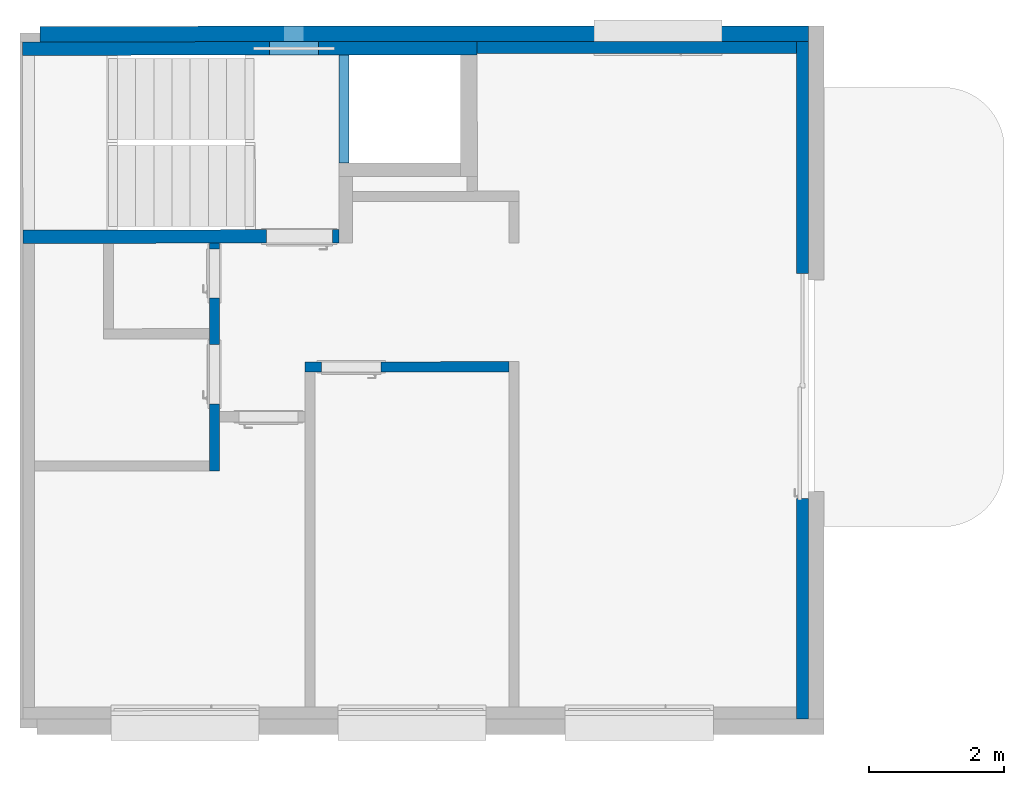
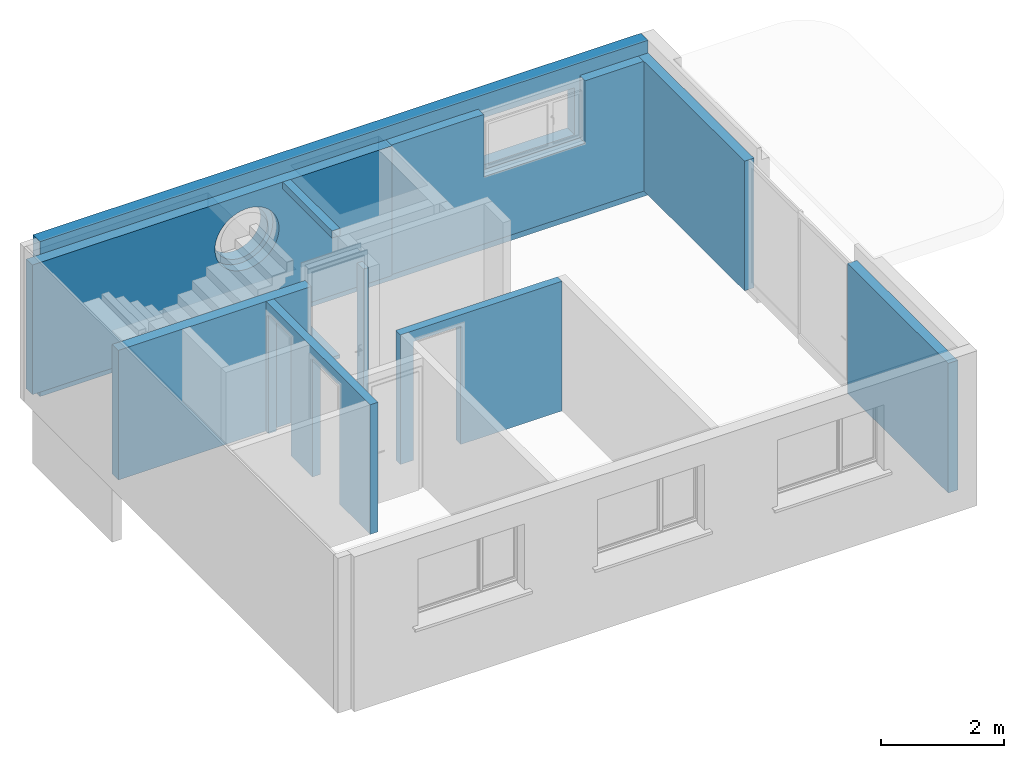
# One storey, part 2 of 9: 8 walls, 10 openings.
"""IFC2X3 building model written with IfcOpenShell, lengths in metres."""

from ifc_helpers import new_model, entity, si_unit, converted_unit, derived_unit, direction, frame, origin, place, context, subcontext, project, spatial, faceted_brep, material, element, save


model = new_model("IFC2X3")

# Units and contexts
model_context = context("Model", 3, precision=1e-05, world=origin(), true_north=direction((0.772621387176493, -0.634867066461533)))
body_context = subcontext(model_context, "Body", "Model", "MODEL_VIEW")
ifc_project = project(units=[si_unit("LENGTHUNIT", "METRE"), si_unit("AREAUNIT", "SQUARE_METRE"), si_unit("VOLUMEUNIT", "CUBIC_METRE"), si_unit("MASSUNIT", "GRAM", prefix="KILO"), converted_unit("PLANEANGLEUNIT", "DEGREE", entity("IfcPlaneAngleMeasure", 0.0174532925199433), si_unit("PLANEANGLEUNIT", "RADIAN"), dimensions=[0, 0, 0, 0, 0, 0, 0]), derived_unit("THERMALTRANSMITTANCEUNIT", [(si_unit("POWERUNIT", "WATT"), 1), (si_unit("THERMODYNAMICTEMPERATUREUNIT", "KELVIN"), -1), (si_unit("LENGTHUNIT", "METRE"), -2)]), derived_unit("VOLUMETRICFLOWRATEUNIT", [(si_unit("LENGTHUNIT", "METRE"), 3), (converted_unit("TIMEUNIT", "hour", entity("IfcTimeMeasure", 3600.0), si_unit("TIMEUNIT", "SECOND"), dimensions=[0, 0, 1, 0, 0, 0, 0]), -1), (si_unit("LENGTHUNIT", "METRE"), -1)])], contexts=[model_context])

# Site, building, storey
site_placement = place(None, origin())
site = spatial("IfcSite", under=ifc_project, at=site_placement, Name="Modelle auf dem Nullpunkt", CompositionType="ELEMENT")
building_placement = place(site_placement, origin())
building = spatial("IfcBuilding", under=site, at=building_placement, Name="I", CompositionType="ELEMENT")
storey_placement = place(building_placement, origin())
storey = spatial("IfcBuildingStorey", under=building, at=storey_placement, Name="1.OG", CompositionType="ELEMENT", Elevation=0.0)

# Wall, opening
ifc_material_1 = material(Name="Brique")
wall_1_placement = place(storey_placement, frame((33.5536264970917, -2.76190628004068, 438.82)))
wall_1 = element("IfcWall", 1, at=wall_1_placement, inside=storey, material=ifc_material_1, context=body_context, shape_type="Brep", body=[
    faceted_brep([(5.30222618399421e-05, 0.0, 0.0), (0.0, 0.149999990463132, 0.0), (0.0, 0.149999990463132, 2.57), (5.30222618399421e-05, 0.0, 2.57), (3.02999981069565, 0.151071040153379, 0.0), (3.02999981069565, 0.151071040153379, 2.57), (3.03005283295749, 0.00107104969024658, 0.0), (3.03005283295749, 0.00107104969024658, 2.57)], [[[0, 1, 2, 3]], [[1, 4, 5, 2]], [[4, 6, 7, 5]], [[6, 0, 3, 7]], [[3, 2, 5, 7]], [[0, 6, 4, 1]]], orient=[[False], [False], [False], [False], [False], [False]]),
])
opening_1_placement = place(wall_1_placement, frame((0.24999998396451, 8.83704363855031e-05, 0.0)))
element("IfcOpeningElement", 2, at=opening_1_placement, cuts=wall_1, ObjectType="Opening", context=body_context, shape_type="Brep", body=[
    faceted_brep([(0.880052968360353, 0.000311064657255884, 0.0), (5.30223846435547e-05, 0.0, 0.0), (5.30223846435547e-05, 0.0, 2.35), (0.880052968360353, 0.000311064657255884, 2.35), (0.879999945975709, 0.150311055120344, 0.0), (0.879999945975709, 0.150311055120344, 2.35), (0.0, 0.149999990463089, 2.35), (0.0, 0.149999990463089, 0.0)], [[[0, 1, 2, 3]], [[4, 5, 6, 7]], [[1, 0, 4, 7]], [[2, 1, 7, 6]], [[3, 2, 6, 5]], [[0, 3, 5, 4]]], orient=[[False], [False], [False], [False], [False], [False]]),
])

ifc_material_2 = material(Name="Béton")
wall_2_placement = place(storey_placement, frame((29.3679339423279, -0.853385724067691, 438.82)))
wall_2 = element("IfcWall", 3, at=wall_2_placement, inside=storey, material=ifc_material_2, Name="Betonwand", context=body_context, shape_type="Brep", body=[
    faceted_brep([(4.69499970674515, 0.201659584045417, 0.0), (4.69507040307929, 0.00165959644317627, 0.0), (4.69507040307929, 0.00165959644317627, 2.57), (4.69499970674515, 0.201659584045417, 2.57), (7.06963341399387e-05, 0.0, 0.0), (7.06963341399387e-05, 0.0, 2.57), (0.0, 0.199999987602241, 0.0), (0.0, 0.199999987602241, 2.57)], [[[0, 1, 2, 3]], [[1, 4, 5, 2]], [[4, 6, 7, 5]], [[6, 0, 3, 7]], [[3, 2, 5, 7]], [[0, 6, 4, 1]]], orient=[[False], [False], [False], [False], [False], [False]]),
])
opening_2_placement = place(wall_2_placement, frame((3.61499977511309, 0.00127783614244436, 0.0)))
element("IfcOpeningElement", 4, at=opening_2_placement, cuts=wall_2, ObjectType="Opening", context=body_context, shape_type="Brep", body=[
    faceted_brep([(0.979999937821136, 0.200346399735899, 0.0), (0.979999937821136, 0.200346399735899, 2.57), (0.0, 0.199999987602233, 2.57), (0.0, 0.199999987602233, 0.0), (0.980070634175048, 0.000346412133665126, 0.0), (7.06963539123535e-05, 0.0, 0.0), (7.06963539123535e-05, 0.0, 2.57), (0.980070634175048, 0.000346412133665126, 2.57)], [[[0, 1, 2, 3]], [[4, 5, 6, 7]], [[3, 5, 4, 0]], [[6, 5, 3, 2]], [[0, 4, 7, 1]], [[7, 6, 2, 1]]], orient=[[False], [False], [False], [False], [False], [False]]),
])

ifc_material_3 = material(Name="Béton")
wall_3_placement = place(storey_placement, frame((29.3669477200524, 1.93661409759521, 438.82)))
wall_3 = element("IfcWall", 5, at=wall_3_placement, inside=storey, material=ifc_material_3, Name="Betonwand", context=body_context, shape_type="Brep", body=[
    faceted_brep([(6.74499957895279, 0.202384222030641, 0.0), (6.74507027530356, 0.00238423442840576, 0.0), (6.74507027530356, 0.00238423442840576, 2.57), (6.74499957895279, 0.202384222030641, 2.57), (7.06963507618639e-05, 0.0, 0.0), (7.06963507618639e-05, 0.0, 2.57), (0.0, 0.199999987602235, 0.0), (0.0, 0.199999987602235, 2.57)], [[[0, 1, 2, 3]], [[1, 4, 5, 2]], [[4, 6, 7, 5]], [[6, 0, 3, 7]], [[3, 2, 5, 7]], [[0, 6, 4, 1]]], orient=[[False], [False], [False], [False], [False], [False]]),
])
opening_3_placement = place(wall_3_placement, frame((3.42499978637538, 0.00121067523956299, 1.08000000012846)))
element("IfcOpeningElement", 6, at=opening_3_placement, cuts=wall_3, ObjectType="Opening", context=body_context, shape_type="Brep", body=[
    faceted_brep([(7.06963539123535e-05, 0.0, 0.600024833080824), (0.00336006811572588, 1.16273302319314e-06, 0.662740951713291), (0.0131869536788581, 4.63635813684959e-06, 0.724769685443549), (0.0294436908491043, 1.0382818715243e-05, 0.785431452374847), (0.0519521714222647, 1.83391567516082e-05, 0.844061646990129), (0.0804657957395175, 2.84182037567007e-05, 0.900017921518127), (0.114672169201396, 4.05095339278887e-05, 0.952687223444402), (0.154196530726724, 5.44806760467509e-05, 1.00149251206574), (0.198605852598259, 7.01785627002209e-05, 1.0458990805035), (0.247413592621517, 8.74312100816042e-05, 1.08542041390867), (0.300085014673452, 0.000106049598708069, 1.11962351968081), (0.356043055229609, 0.00012582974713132, 1.14813367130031), (0.414674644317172, 0.000146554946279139, 1.1706385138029), (0.475337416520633, 0.000167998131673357, 1.18689148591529), (0.537366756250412, 0.000189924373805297, 1.19671452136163), (0.600083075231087, 0.000212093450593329, 1.19999999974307), (0.662799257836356, 0.000234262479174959, 1.19671192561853), (0.724828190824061, 0.000256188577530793, 1.18688632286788), (0.785490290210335, 0.000277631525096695, 1.17063084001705), (0.844120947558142, 0.000298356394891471, 1.14812357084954), (0.90007780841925, 0.000318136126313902, 1.11961110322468), (0.952747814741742, 0.000336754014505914, 1.08540581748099), (1.00155391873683, 0.000354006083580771, 1.04588246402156), (1.0459614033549, 0.000369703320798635, 1.00147405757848), (1.08548374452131, 0.000383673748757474, 0.952667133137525), (1.11968793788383, 0.000395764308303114, 0.899996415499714), (1.14819924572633, 0.000405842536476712, 0.844038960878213), (1.17070530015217, 0.00041379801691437, 0.785407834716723), (1.18695952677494, 0.000419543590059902, 0.724745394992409), (1.19678384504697, 0.000423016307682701, 0.662716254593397), (1.20007062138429, 0.000424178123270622, 0.599999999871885), (1.19678384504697, 0.000423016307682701, 0.537283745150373), (1.18695952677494, 0.000419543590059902, 0.475254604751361), (1.17070530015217, 0.00041379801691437, 0.414592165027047), (1.14819924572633, 0.000405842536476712, 0.355961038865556), (1.11968793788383, 0.000395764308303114, 0.300003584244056), (1.08548374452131, 0.000383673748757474, 0.247332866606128), (1.0459614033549, 0.000369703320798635, 0.198525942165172), (1.00155391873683, 0.000354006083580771, 0.154117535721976), (0.952747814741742, 0.000336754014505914, 0.114594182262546), (0.90007780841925, 0.000318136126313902, 0.0803888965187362), (0.844120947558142, 0.000298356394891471, 0.0518764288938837), (0.785490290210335, 0.000277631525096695, 0.0293691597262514), (0.724828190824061, 0.000256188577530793, 0.0131136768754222), (0.662799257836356, 0.000234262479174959, 0.00328807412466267), (0.600083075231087, 0.000212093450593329, 0.0), (0.537366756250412, 0.000189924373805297, 0.00328547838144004), (0.475337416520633, 0.000167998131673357, 0.0131085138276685), (0.414674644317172, 0.000146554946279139, 0.029361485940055), (0.356043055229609, 0.00012582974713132, 0.0518663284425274), (0.300085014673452, 0.000106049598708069, 0.0803764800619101), (0.247413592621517, 8.74312100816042e-05, 0.114579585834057), (0.198605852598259, 7.01785627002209e-05, 0.154100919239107), (0.154196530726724, 5.44806760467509e-05, 0.198507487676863), (0.114672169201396, 4.05095339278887e-05, 0.247312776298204), (0.0804657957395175, 2.84182037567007e-05, 0.299982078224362), (0.0519521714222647, 1.83391567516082e-05, 0.355938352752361), (0.0294436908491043, 1.0382818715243e-05, 0.414568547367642), (0.0131869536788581, 4.63635813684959e-06, 0.475230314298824), (0.00336006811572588, 1.16273302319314e-06, 0.537259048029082), (0.0, 0.199999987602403, 0.600024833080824), (0.00328937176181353, 0.200001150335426, 0.537259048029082), (0.0131162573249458, 0.200004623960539, 0.475230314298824), (0.029372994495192, 0.200010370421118, 0.414568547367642), (0.0518814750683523, 0.200018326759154, 0.355938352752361), (0.0803950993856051, 0.200028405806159, 0.299982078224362), (0.114601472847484, 0.20004049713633, 0.247312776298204), (0.154125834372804, 0.200054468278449, 0.198507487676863), (0.198535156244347, 0.200070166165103, 0.154100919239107), (0.247342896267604, 0.200087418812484, 0.114579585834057), (0.300014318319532, 0.200106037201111, 0.0803764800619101), (0.355972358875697, 0.200125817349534, 0.0518663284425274), (0.41460394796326, 0.200146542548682, 0.029361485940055), (0.475266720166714, 0.200167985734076, 0.0131085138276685), (0.537296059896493, 0.200189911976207, 0.00328547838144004), (0.600012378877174, 0.200212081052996, 0.0), (0.662728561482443, 0.200234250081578, 0.00328807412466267), (0.724757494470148, 0.200256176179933, 0.0131136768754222), (0.785419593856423, 0.200277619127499, 0.0293691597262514), (0.844050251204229, 0.200298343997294, 0.0518764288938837), (0.900007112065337, 0.200318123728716, 0.0803888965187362), (0.95267711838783, 0.200336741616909, 0.114594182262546), (1.00148322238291, 0.200353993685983, 0.154117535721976), (1.04589070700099, 0.200369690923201, 0.198525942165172), (1.0854130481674, 0.20038366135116, 0.247332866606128), (1.11961724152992, 0.200395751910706, 0.300003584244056), (1.14812854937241, 0.200405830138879, 0.355961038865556), (1.17063460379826, 0.200413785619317, 0.414592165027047), (1.18688883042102, 0.200419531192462, 0.475254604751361), (1.19671314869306, 0.200423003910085, 0.537283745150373), (1.19999992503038, 0.200424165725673, 0.599999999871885), (1.19671314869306, 0.200423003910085, 0.662716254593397), (1.18688883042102, 0.200419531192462, 0.724745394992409), (1.17063460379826, 0.200413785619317, 0.785407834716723), (1.14812854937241, 0.200405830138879, 0.844038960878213), (1.11961724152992, 0.200395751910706, 0.899996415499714), (1.0854130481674, 0.20038366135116, 0.952667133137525), (1.04589070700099, 0.200369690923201, 1.00147405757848), (1.00148322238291, 0.200353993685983, 1.04588246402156), (0.95267711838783, 0.200336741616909, 1.08540581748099), (0.900007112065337, 0.200318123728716, 1.11961110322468), (0.844050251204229, 0.200298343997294, 1.14812357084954), (0.785419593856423, 0.200277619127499, 1.17063084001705), (0.724757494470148, 0.200256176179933, 1.18688632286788), (0.662728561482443, 0.200234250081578, 1.19671192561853), (0.600012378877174, 0.200212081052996, 1.19999999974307), (0.537296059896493, 0.200189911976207, 1.19671452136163), (0.475266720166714, 0.200167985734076, 1.18689148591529), (0.41460394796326, 0.200146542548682, 1.1706385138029), (0.355972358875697, 0.200125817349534, 1.14813367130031), (0.300014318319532, 0.200106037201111, 1.11962351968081), (0.247342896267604, 0.200087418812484, 1.08542041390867), (0.198535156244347, 0.200070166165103, 1.0458990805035), (0.154125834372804, 0.200054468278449, 1.00149251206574), (0.114601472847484, 0.20004049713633, 0.952687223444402), (0.0803950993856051, 0.200028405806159, 0.900017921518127), (0.0518814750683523, 0.200018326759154, 0.844061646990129), (0.029372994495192, 0.200010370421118, 0.785431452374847), (0.0131162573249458, 0.200004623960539, 0.724769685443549), (0.00328937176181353, 0.200001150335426, 0.662740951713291)], [[[0, 1, 2, 3, 4, 5, 6, 7, 8, 9, 10, 11, 12, 13, 14, 15, 16, 17, 18, 19, 20, 21, 22, 23, 24, 25, 26, 27, 28, 29, 30, 31, 32, 33, 34, 35, 36, 37, 38, 39, 40, 41, 42, 43, 44, 45, 46, 47, 48, 49, 50, 51, 52, 53, 54, 55, 56, 57, 58, 59]], [[60, 61, 62, 63, 64, 65, 66, 67, 68, 69, 70, 71, 72, 73, 74, 75, 76, 77, 78, 79, 80, 81, 82, 83, 84, 85, 86, 87, 88, 89, 90, 91, 92, 93, 94, 95, 96, 97, 98, 99, 100, 101, 102, 103, 104, 105, 106, 107, 108, 109, 110, 111, 112, 113, 114, 115, 116, 117, 118, 119]], [[1, 0, 60, 119]], [[2, 1, 119, 118]], [[3, 2, 118, 117]], [[4, 3, 117, 116]], [[5, 4, 116, 115]], [[6, 5, 115, 114]], [[7, 6, 114, 113]], [[8, 7, 113, 112]], [[9, 8, 112, 111]], [[10, 9, 111, 110]], [[11, 10, 110, 109]], [[12, 11, 109, 108]], [[13, 12, 108, 107]], [[14, 13, 107, 106]], [[15, 14, 106, 105]], [[16, 15, 105, 104]], [[17, 16, 104, 103]], [[18, 17, 103, 102]], [[19, 18, 102, 101]], [[20, 19, 101, 100]], [[21, 20, 100, 99]], [[22, 21, 99, 98]], [[23, 22, 98, 97]], [[24, 23, 97, 96]], [[25, 24, 96, 95]], [[26, 25, 95, 94]], [[27, 26, 94, 93]], [[28, 27, 93, 92]], [[29, 28, 92, 91]], [[30, 29, 91, 90]], [[31, 30, 90, 89]], [[32, 31, 89, 88]], [[33, 32, 88, 87]], [[34, 33, 87, 86]], [[35, 34, 86, 85]], [[36, 35, 85, 84]], [[37, 36, 84, 83]], [[38, 37, 83, 82]], [[39, 38, 82, 81]], [[40, 39, 81, 80]], [[41, 40, 80, 79]], [[42, 41, 79, 78]], [[43, 42, 78, 77]], [[44, 43, 77, 76]], [[45, 44, 76, 75]], [[46, 45, 75, 74]], [[47, 46, 74, 73]], [[48, 47, 73, 72]], [[49, 48, 72, 71]], [[50, 49, 71, 70]], [[51, 50, 70, 69]], [[52, 51, 69, 68]], [[53, 52, 68, 67]], [[54, 53, 67, 66]], [[55, 54, 66, 65]], [[56, 55, 65, 64]], [[57, 56, 64, 63]], [[58, 57, 63, 62]], [[59, 58, 62, 61]], [[0, 59, 61, 60]]], orient=[[False], [False], [False], [False], [False], [False], [False], [False], [False], [False], [False], [False], [False], [False], [False], [False], [False], [False], [False], [False], [False], [False], [False], [False], [False], [False], [False], [False], [False], [False], [False], [False], [False], [False], [False], [False], [False], [False], [False], [False], [False], [False], [False], [False], [False], [False], [False], [False], [False], [False], [False], [False], [False], [False], [False], [False], [False], [False], [False], [False], [False], [False]]),
])

ifc_material_4 = material(Name="Béton")
wall_4_placement = place(storey_placement, frame((34.0620181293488, 0.338273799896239, 438.82)))
wall_4 = element("IfcWall", 7, at=wall_4_placement, inside=storey, material=ifc_material_4, Name="Betonwand", context=body_context, shape_type="Brep", body=[
    faceted_brep([(0.0, 1.5999998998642, 0.0), (0.1499999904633, 1.60005292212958, 0.0), (0.1499999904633, 1.60005292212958, 2.57), (0.0, 1.5999998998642, 2.57), (0.150565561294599, 5.30222653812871e-05, 0.0), (0.150565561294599, 5.30222653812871e-05, 2.57), (0.000565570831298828, 0.0, 0.0), (0.000565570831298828, 0.0, 2.57)], [[[0, 1, 2, 3]], [[1, 4, 5, 2]], [[4, 6, 7, 5]], [[6, 0, 3, 7]], [[3, 2, 5, 7]], [[0, 6, 4, 1]]], orient=[[False], [False], [False], [False], [False], [False]]),
])
opening_4_placement = place(wall_4_placement, frame((0.0, 0.0, 0.065)))
element("IfcOpeningElement", 8, at=opening_4_placement, cuts=wall_4, ObjectType="Opening", context=body_context, shape_type="Brep", body=[
    faceted_brep([(0.15056556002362, 5.30221462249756e-05, 0.0), (0.15056556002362, 5.30221462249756e-05, 2.365), (0.149999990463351, 1.60005292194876, 2.365), (0.149999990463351, 1.60005292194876, 0.0), (0.000565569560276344, 0.0, 0.0), (0.0, 1.59999989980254, 0.0), (0.0, 1.59999989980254, 2.365), (0.000565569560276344, 0.0, 2.365)], [[[0, 1, 2, 3]], [[4, 5, 6, 7]], [[3, 5, 4, 0]], [[2, 6, 5, 3]], [[1, 7, 6, 2]], [[0, 4, 7, 1]]], orient=[[False], [False], [False], [False], [False], [False]]),
])

# Wall, openings
ifc_material_5 = material(Name="Brique")
wall_5_placement = place(storey_placement, frame((32.1380044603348, -4.23240637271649, 438.82)))
wall_5 = element("IfcWall", 9, at=wall_5_placement, inside=storey, material=ifc_material_5, context=body_context, shape_type="Brep", body=[
    faceted_brep([(0.15119475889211, 5.30222465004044e-05, 0.0), (0.00119476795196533, 0.0, 0.0), (0.00119476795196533, 0.0, 2.57), (0.15119475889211, 5.30222465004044e-05, 2.57), (0.0, 3.37999978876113, 0.0), (0.0, 3.37999978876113, 2.57), (0.149999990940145, 3.38005281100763, 0.0), (0.149999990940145, 3.38005281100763, 2.57)], [[[0, 1, 2, 3]], [[1, 4, 5, 2]], [[4, 6, 7, 5]], [[6, 0, 3, 7]], [[3, 2, 5, 7]], [[0, 6, 4, 1]]], orient=[[False], [False], [False], [False], [False], [False]]),
])
opening_5_placement = place(wall_5_placement, frame((0.000531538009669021, 0.996278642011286, 0.0)))
element("IfcOpeningElement", 10, at=opening_5_placement, cuts=wall_5, ObjectType="Opening", context=body_context, shape_type="Brep", body=[
    faceted_brep([(0.000311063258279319, 0.0, 0.0), (0.0, 0.879999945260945, 0.0), (0.0, 0.879999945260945, 2.35), (0.000311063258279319, 0.0, 2.35), (0.15031105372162, 5.30221462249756e-05, 0.0), (0.15031105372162, 5.30221462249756e-05, 2.35), (0.149999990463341, 0.88005296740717, 2.35), (0.149999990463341, 0.88005296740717, 0.0)], [[[0, 1, 2, 3]], [[4, 5, 6, 7]], [[1, 0, 4, 7]], [[2, 1, 7, 6]], [[3, 2, 6, 5]], [[0, 3, 5, 4]]], orient=[[False], [False], [False], [False], [False], [False]]),
])
opening_6_placement = place(wall_5_placement, frame((3.0045986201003e-05, 2.564999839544, 0.0)))
element("IfcOpeningElement", 11, at=opening_6_placement, cuts=wall_5, ObjectType="Opening", context=body_context, shape_type="Brep", body=[
    faceted_brep([(0.000258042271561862, 0.0, 0.0), (0.0, 0.729999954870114, 0.0), (0.0, 0.729999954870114, 2.35), (0.000258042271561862, 0.0, 2.35), (0.150258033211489, 5.30223846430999e-05, 0.0), (0.150258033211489, 5.30223846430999e-05, 2.35), (0.149999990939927, 0.730052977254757, 2.35), (0.149999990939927, 0.730052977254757, 0.0)], [[[0, 1, 2, 3]], [[4, 5, 6, 7]], [[1, 0, 4, 7]], [[2, 1, 7, 6]], [[3, 2, 6, 5]], [[0, 3, 5, 4]]], orient=[[False], [False], [False], [False], [False], [False]]),
])

ifc_material_6 = material(Name="Isolation périphérique")
wall_6_placement = place(storey_placement, frame((29.6268664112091, 2.13670599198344, 438.57)))
wall_6 = element("IfcWall", 12, at=wall_6_placement, inside=storey, material=ifc_material_6, context=body_context, shape_type="Brep", body=[
    faceted_brep([(11.3999992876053, 0.234029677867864, 0.0), (11.4000805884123, 0.00402969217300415, 0.0), (11.4000805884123, 0.00402969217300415, 3.07), (11.3999992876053, 0.234029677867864, 3.07), (8.13008070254e-05, 0.0, 0.0), (8.13008070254e-05, 0.0, 3.07), (0.0, 0.22999998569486, 0.0), (0.0, 0.22999998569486, 3.07)], [[[0, 1, 2, 3]], [[1, 4, 5, 2]], [[4, 6, 7, 5]], [[6, 0, 3, 7]], [[3, 2, 5, 7]], [[0, 6, 4, 1]]], orient=[[False], [False], [False], [False], [False], [False]]),
])
opening_7_placement = place(wall_6_placement, frame((8.31999948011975, 0.00294096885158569, 1.68)))
element("IfcOpeningElement", 13, at=opening_7_placement, cuts=wall_6, ObjectType="Opening", context=body_context, shape_type="Brep", body=[
    faceted_brep([(1.69999989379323, 0.230600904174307, 0.0), (1.69999989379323, 0.230600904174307, 0.93), (0.0, 0.229999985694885, 0.93), (0.0, 0.229999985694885, 0.0), (1.7000811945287, 0.000600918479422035, 0.0), (8.13007354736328e-05, 0.0, 0.0), (8.13007354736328e-05, 0.0, 0.93), (1.7000811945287, 0.000600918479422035, 0.93)], [[[0, 1, 2, 3]], [[4, 5, 6, 7]], [[3, 5, 4, 0]], [[2, 6, 5, 3]], [[1, 7, 6, 2]], [[0, 4, 7, 1]]], orient=[[False], [False], [False], [False], [False], [False]]),
])
opening_8_placement = place(wall_6_placement, frame((3.26499977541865, 0.00115411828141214, 1.43000000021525)))
element("IfcOpeningElement", 14, at=opening_8_placement, cuts=wall_6, ObjectType="Opening", context=body_context, shape_type="Brep", body=[
    faceted_brep([(0.0, 0.229999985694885, 0.499999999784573), (0.00273894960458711, 0.230000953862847, 0.447736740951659), (0.0109257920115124, 0.230003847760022, 0.396046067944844), (0.0244708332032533, 0.230008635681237, 0.345494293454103), (0.0432256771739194, 0.230015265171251, 0.296635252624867), (0.0669848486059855, 0.230023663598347, 0.250004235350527), (0.095488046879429, 0.230033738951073, 0.206112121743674), (0.128422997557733, 0.230045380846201, 0.165439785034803), (0.165428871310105, 0.230058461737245, 0.128432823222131), (0.20610023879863, 0.230072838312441, 0.0954966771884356), (0.249991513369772, 0.230088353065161, 0.0669921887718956), (0.296621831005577, 0.230104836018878, 0.043231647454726), (0.345480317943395, 0.23012210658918, 0.0244753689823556), (0.396031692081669, 0.230139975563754, 0.0109288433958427), (0.447722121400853, 0.230158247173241, 0.00274048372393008), (0.499985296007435, 0.230176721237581, 0.0), (0.552248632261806, 0.230195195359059, 0.00273741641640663), (0.603939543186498, 0.230213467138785, 0.0109227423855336), (0.65449171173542, 0.230231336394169, 0.0244663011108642), (0.70335129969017, 0.230248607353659, 0.0432197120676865), (0.749983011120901, 0.230265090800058, 0.0669775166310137), (0.793875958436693, 0.230280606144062, 0.0954794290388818), (0.834549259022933, 0.230294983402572, 0.128413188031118), (0.871557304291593, 0.230308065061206, 0.165417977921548), (0.904494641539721, 0.230319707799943, 0.206088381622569), (0.933000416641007, 0.23032978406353, 0.249978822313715), (0.95676232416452, 0.230338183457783, 0.296608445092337), (0.975520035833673, 0.230344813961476, 0.345466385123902), (0.989068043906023, 0.230349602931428, 0.396017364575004), (0.997257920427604, 0.230352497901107, 0.447707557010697), (0.999999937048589, 0.230353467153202, 0.499970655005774), (0.997257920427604, 0.230352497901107, 0.552292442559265), (0.989068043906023, 0.230349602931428, 0.603982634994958), (0.975520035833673, 0.230344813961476, 0.65453361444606), (0.95676232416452, 0.230338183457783, 0.703391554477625), (0.933000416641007, 0.23032978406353, 0.750021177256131), (0.904494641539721, 0.230319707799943, 0.793911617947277), (0.871557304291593, 0.230308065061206, 0.834582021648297), (0.834549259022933, 0.230294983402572, 0.871586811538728), (0.793875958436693, 0.230280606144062, 0.904520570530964), (0.749983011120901, 0.230265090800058, 0.933022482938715), (0.70335129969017, 0.230248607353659, 0.956780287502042), (0.65449171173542, 0.230231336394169, 0.975533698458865), (0.603939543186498, 0.230213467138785, 0.989077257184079), (0.552248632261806, 0.230195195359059, 0.997262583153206), (0.499985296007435, 0.230176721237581, 0.999999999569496), (0.447722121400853, 0.230158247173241, 0.997259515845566), (0.396031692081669, 0.230139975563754, 0.989071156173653), (0.345480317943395, 0.23012210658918, 0.975524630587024), (0.296621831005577, 0.230104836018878, 0.956768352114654), (0.249991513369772, 0.230088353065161, 0.933007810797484), (0.20610023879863, 0.230072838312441, 0.904503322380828), (0.165428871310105, 0.230058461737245, 0.871567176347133), (0.128422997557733, 0.230045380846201, 0.83456021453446), (0.095488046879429, 0.230033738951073, 0.793887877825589), (0.0669848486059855, 0.230023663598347, 0.74999576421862), (0.0432256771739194, 0.230015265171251, 0.70336474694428), (0.0244708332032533, 0.230008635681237, 0.654505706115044), (0.0109257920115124, 0.230003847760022, 0.603953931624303), (0.00273894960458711, 0.230000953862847, 0.552263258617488), (8.13007354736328e-05, 0.0, 0.499999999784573), (0.00282025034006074, 9.68167961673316e-07, 0.552263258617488), (0.011007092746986, 3.86206513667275e-06, 0.603953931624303), (0.0245521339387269, 8.64998635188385e-06, 0.654505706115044), (0.043306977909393, 1.52794763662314e-05, 0.70336474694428), (0.0670661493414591, 2.36779034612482e-05, 0.74999576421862), (0.0955693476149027, 3.37532561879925e-05, 0.793887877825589), (0.128504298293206, 4.53951513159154e-05, 0.83456021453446), (0.165510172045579, 5.84760423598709e-05, 0.871567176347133), (0.206181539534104, 7.28526175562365e-05, 0.904503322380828), (0.250072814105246, 8.83673702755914e-05, 0.933007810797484), (0.296703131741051, 0.00010485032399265, 0.956768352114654), (0.345561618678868, 0.000122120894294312, 0.975524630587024), (0.396112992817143, 0.000139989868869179, 0.989071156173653), (0.447803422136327, 0.000158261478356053, 0.997259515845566), (0.500066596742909, 0.000176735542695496, 0.999999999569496), (0.55232993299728, 0.000195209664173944, 0.997262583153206), (0.604020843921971, 0.000213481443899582, 0.989077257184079), (0.654573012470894, 0.000231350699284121, 0.975533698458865), (0.703432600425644, 0.000248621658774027, 0.956780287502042), (0.750064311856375, 0.000265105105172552, 0.933022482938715), (0.793957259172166, 0.00028062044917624, 0.904520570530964), (0.834630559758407, 0.000294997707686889, 0.871586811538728), (0.871638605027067, 0.000308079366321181, 0.834582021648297), (0.904575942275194, 0.000319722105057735, 0.793911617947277), (0.933081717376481, 0.000329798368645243, 0.750021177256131), (0.956843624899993, 0.000338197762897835, 0.703391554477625), (0.975601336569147, 0.000344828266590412, 0.65453361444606), (0.989149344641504, 0.000349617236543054, 0.603982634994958), (0.997339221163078, 0.00035251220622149, 0.552292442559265), (1.00008123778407, 0.00035348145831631, 0.499970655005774), (0.997339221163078, 0.00035251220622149, 0.447707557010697), (0.989149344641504, 0.000349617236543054, 0.396017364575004), (0.975601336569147, 0.000344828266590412, 0.345466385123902), (0.956843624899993, 0.000338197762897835, 0.296608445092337), (0.933081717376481, 0.000329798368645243, 0.249978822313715), (0.904575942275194, 0.000319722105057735, 0.206088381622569), (0.871638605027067, 0.000308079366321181, 0.165417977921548), (0.834630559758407, 0.000294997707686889, 0.128413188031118), (0.793957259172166, 0.00028062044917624, 0.0954794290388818), (0.750064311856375, 0.000265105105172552, 0.0669775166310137), (0.703432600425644, 0.000248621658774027, 0.0432197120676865), (0.654573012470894, 0.000231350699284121, 0.0244663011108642), (0.604020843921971, 0.000213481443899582, 0.0109227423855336), (0.55232993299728, 0.000195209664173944, 0.00273741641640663), (0.500066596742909, 0.000176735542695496, 0.0), (0.447803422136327, 0.000158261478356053, 0.00274048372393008), (0.396112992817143, 0.000139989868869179, 0.0109288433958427), (0.345561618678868, 0.000122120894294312, 0.0244753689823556), (0.296703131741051, 0.00010485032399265, 0.043231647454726), (0.250072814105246, 8.83673702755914e-05, 0.0669921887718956), (0.206181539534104, 7.28526175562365e-05, 0.0954966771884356), (0.165510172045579, 5.84760423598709e-05, 0.128432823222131), (0.128504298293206, 4.53951513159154e-05, 0.165439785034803), (0.0955693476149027, 3.37532561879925e-05, 0.206112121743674), (0.0670661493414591, 2.36779034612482e-05, 0.250004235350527), (0.043306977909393, 1.52794763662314e-05, 0.296635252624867), (0.0245521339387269, 8.64998635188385e-06, 0.345494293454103), (0.011007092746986, 3.86206513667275e-06, 0.396046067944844), (0.00282025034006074, 9.68167961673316e-07, 0.447736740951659)], [[[0, 1, 2, 3, 4, 5, 6, 7, 8, 9, 10, 11, 12, 13, 14, 15, 16, 17, 18, 19, 20, 21, 22, 23, 24, 25, 26, 27, 28, 29, 30, 31, 32, 33, 34, 35, 36, 37, 38, 39, 40, 41, 42, 43, 44, 45, 46, 47, 48, 49, 50, 51, 52, 53, 54, 55, 56, 57, 58, 59]], [[60, 61, 62, 63, 64, 65, 66, 67, 68, 69, 70, 71, 72, 73, 74, 75, 76, 77, 78, 79, 80, 81, 82, 83, 84, 85, 86, 87, 88, 89, 90, 91, 92, 93, 94, 95, 96, 97, 98, 99, 100, 101, 102, 103, 104, 105, 106, 107, 108, 109, 110, 111, 112, 113, 114, 115, 116, 117, 118, 119]], [[59, 61, 60, 0]], [[58, 62, 61, 59]], [[57, 63, 62, 58]], [[56, 64, 63, 57]], [[55, 65, 64, 56]], [[54, 66, 65, 55]], [[53, 67, 66, 54]], [[52, 68, 67, 53]], [[51, 69, 68, 52]], [[50, 70, 69, 51]], [[49, 71, 70, 50]], [[48, 72, 71, 49]], [[47, 73, 72, 48]], [[46, 74, 73, 47]], [[45, 75, 74, 46]], [[44, 76, 75, 45]], [[43, 77, 76, 44]], [[42, 78, 77, 43]], [[41, 79, 78, 42]], [[40, 80, 79, 41]], [[39, 81, 80, 40]], [[38, 82, 81, 39]], [[37, 83, 82, 38]], [[36, 84, 83, 37]], [[35, 85, 84, 36]], [[34, 86, 85, 35]], [[33, 87, 86, 34]], [[32, 88, 87, 33]], [[31, 89, 88, 32]], [[30, 90, 89, 31]], [[29, 91, 90, 30]], [[28, 92, 91, 29]], [[27, 93, 92, 28]], [[26, 94, 93, 27]], [[25, 95, 94, 26]], [[24, 96, 95, 25]], [[23, 97, 96, 24]], [[22, 98, 97, 23]], [[21, 99, 98, 22]], [[20, 100, 99, 21]], [[19, 101, 100, 20]], [[18, 102, 101, 19]], [[17, 103, 102, 18]], [[16, 104, 103, 17]], [[15, 105, 104, 16]], [[14, 106, 105, 15]], [[13, 107, 106, 14]], [[12, 108, 107, 13]], [[11, 109, 108, 12]], [[10, 110, 109, 11]], [[9, 111, 110, 10]], [[8, 112, 111, 9]], [[7, 113, 112, 8]], [[6, 114, 113, 7]], [[5, 115, 114, 6]], [[4, 116, 115, 5]], [[3, 117, 116, 4]], [[2, 118, 117, 3]], [[1, 119, 118, 2]], [[0, 60, 119, 1]]], orient=[[False], [False], [False], [False], [False], [False], [False], [False], [False], [False], [False], [False], [False], [False], [False], [False], [False], [False], [False], [False], [False], [False], [False], [False], [False], [False], [False], [False], [False], [False], [False], [False], [False], [False], [False], [False], [False], [False], [False], [False], [False], [False], [False], [False], [False], [False], [False], [False], [False], [False], [False], [False], [False], [False], [False], [False], [False], [False], [False], [False], [False], [False]]),
])

# Wall, opening
ifc_material_7 = material(Name="Brique")
wall_7_placement = place(storey_placement, frame((36.1119473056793, 1.96399833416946, 438.82)))
wall_7 = element("IfcWall", 15, at=wall_7_placement, inside=storey, material=ifc_material_7, context=body_context, shape_type="Brep", body=[
    faceted_brep([(4.73499970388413, 0.176673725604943, 0.0), (4.73506156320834, 0.00167373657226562, 0.0), (4.73506156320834, 0.00167373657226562, 2.57), (4.73499970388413, 0.176673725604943, 2.57), (6.18593242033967e-05, 0.0, 0.0), (6.18593242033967e-05, 0.0, 2.57), (0.0, 0.174999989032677, 0.0), (0.0, 0.174999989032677, 2.57)], [[[0, 1, 2, 3]], [[1, 4, 5, 2]], [[4, 6, 7, 5]], [[6, 0, 3, 7]], [[3, 2, 5, 7]], [[0, 6, 4, 1]]], orient=[[False], [False], [False], [False], [False], [False]]),
])
opening_9_placement = place(wall_7_placement, frame((1.73499989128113, 0.000613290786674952, 1.33)))
element("IfcOpeningElement", 16, at=opening_9_placement, cuts=wall_7, ObjectType="Opening", context=body_context, shape_type="Brep", body=[
    faceted_brep([(1.90006174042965, 0.000671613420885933, 0.0), (6.1859130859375e-05, 0.0, 0.0), (6.1859130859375e-05, 0.0, 1.24), (1.90006174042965, 0.000671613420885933, 1.24), (1.89999988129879, 0.175671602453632, 0.0), (1.89999988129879, 0.175671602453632, 1.24), (0.0, 0.174999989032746, 1.24), (0.0, 0.174999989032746, 0.0)], [[[0, 1, 2, 3]], [[4, 5, 6, 7]], [[1, 0, 4, 7]], [[2, 1, 7, 6]], [[3, 2, 6, 5]], [[0, 3, 5, 4]]], orient=[[False], [False], [False], [False], [False], [False]]),
])

ifc_material_8 = material(Name="Béton")
wall_8_placement = place(storey_placement, frame((40.8469470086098, -7.90932731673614, 438.82)))
wall_8 = element("IfcWall", 17, at=wall_8_placement, inside=storey, material=ifc_material_8, Name="Betonwand", context=body_context, shape_type="Brep", body=[
    faceted_brep([(0.183552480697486, 6.36267164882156e-05, 0.0), (0.00355249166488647, 0.0, 0.0), (0.00355249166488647, 0.0, 2.57), (0.183552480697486, 6.36267164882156e-05, 2.57), (0.0, 10.0499993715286, 0.0), (0.0, 10.0499993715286, 2.57), (0.1799999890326, 10.0500629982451, 0.0), (0.1799999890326, 10.0500629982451, 2.57)], [[[0, 1, 2, 3]], [[1, 4, 5, 2]], [[4, 6, 7, 5]], [[6, 0, 3, 7]], [[3, 2, 5, 7]], [[0, 6, 4, 1]]], orient=[[False], [False], [False], [False], [False], [False]]),
])
opening_10_placement = place(wall_8_placement, frame((0.00121597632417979, 3.26999979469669, 0.0)))
element("IfcOpeningElement", 18, at=opening_10_placement, cuts=wall_8, ObjectType="Opening", context=body_context, shape_type="Brep", body=[
    faceted_brep([(0.181180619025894, 6.3626766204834e-05, 0.0), (0.181180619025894, 6.3626766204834e-05, 2.57), (0.179999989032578, 3.34006341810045, 2.57), (0.179999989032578, 3.34006341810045, 0.0), (0.00118062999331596, 0.0, 0.0), (0.0, 3.33999979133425, 0.0), (0.0, 3.33999979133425, 2.57), (0.00118062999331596, 0.0, 2.57)], [[[0, 1, 2, 3]], [[4, 5, 6, 7]], [[3, 5, 4, 0]], [[2, 6, 5, 3]], [[1, 7, 6, 2]], [[0, 4, 7, 1]]], orient=[[False], [False], [False], [False], [False], [False]]),
])

save(model, "model.ifc")
